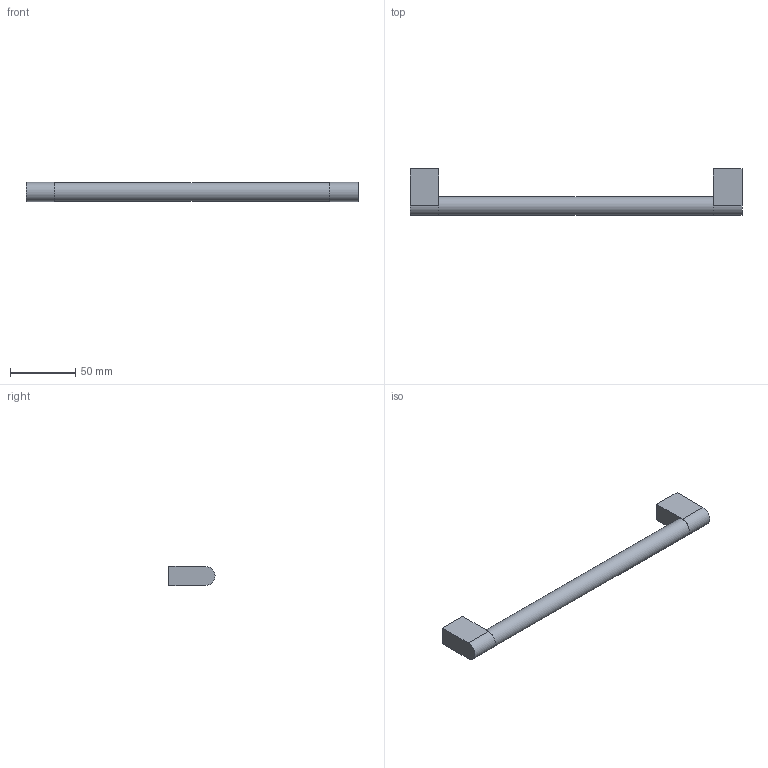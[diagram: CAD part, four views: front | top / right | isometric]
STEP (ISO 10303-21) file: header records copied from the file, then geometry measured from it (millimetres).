
FILE_DESCRIPTION( ( 'STEP AP214' ), '1' );
FILE_NAME( 'C:/Shahbaz/Shahbaz D&D/Task/Working-ON/Varna/QC/9332350.stp', '2023-08-29T07:03:53', ( '' ), ( '' ), ' ', 'PARTsolutions', ' ' );
FILE_SCHEMA( ( 'AUTOMOTIVE_DESIGN { 1 0 10303 214 1 1 1 1 }' ) );
Length unit declared in the file: millimetre
Products named in the file (1): _9332350
Bounding box: 254 x 35.36 x 14.64 mm (x, y, z)
Volume: 54117.1 mm3; surface area: 15738 mm2
Topology: 1 solids, 1 shells, 17 faces, 33 edges, 22 vertices
Faces by surface type: plane 12, cylinder 5
Full cylindrical faces by diameter (mm): 6.2 x2, 14.2 x1
Entity records: 574 total; most frequent: DIRECTION 76, CARTESIAN_POINT 70, ORIENTED_EDGE 60, EDGE_CURVE 30, AXIS2_PLACEMENT_3D 28, EDGE_LOOP 24, VERTEX_POINT 22, FACE_OUTER_BOUND 20
